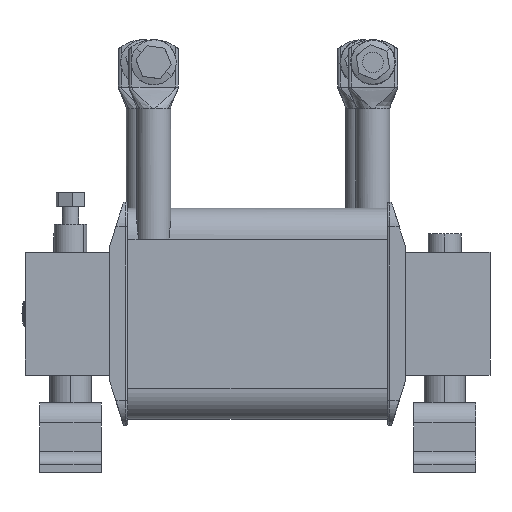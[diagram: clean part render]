
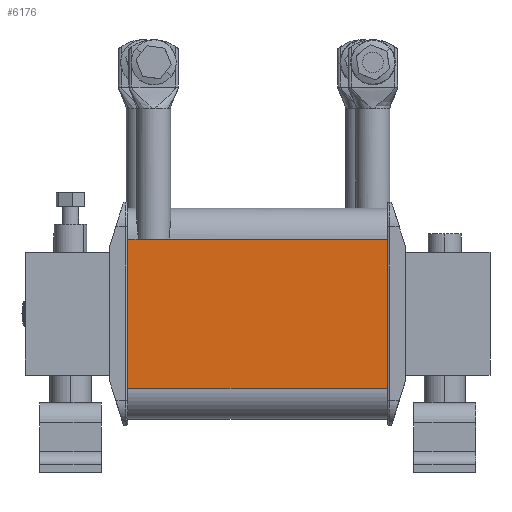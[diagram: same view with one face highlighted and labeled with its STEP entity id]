
A CAD part, left-side view. The second image highlights one B-rep face of the part: STEP entity #6176.
In plain terms, the highlighted planar face has unit normal (-1, 0, 0).
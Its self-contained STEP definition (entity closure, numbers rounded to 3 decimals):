
#111 = ORIENTED_EDGE ( 'NONE', *, *, #1523, .F. ) ;
#358 = CARTESIAN_POINT ( 'NONE',  ( -131.75, 175.8, 36.25 ) ) ;
#577 = CARTESIAN_POINT ( 'NONE',  ( -131.75, 175.8, -36.25 ) ) ;
#892 = DIRECTION ( 'NONE',  ( 0., -1., 0. ) ) ;
#1019 = CARTESIAN_POINT ( 'NONE',  ( -131.75, 49.8, -36.25 ) ) ;
#1523 = EDGE_CURVE ( 'NONE', #2872, #8637, #11412, .T. ) ;
#1565 = ORIENTED_EDGE ( 'NONE', *, *, #7828, .F. ) ;
#2137 = CARTESIAN_POINT ( 'NONE',  ( -131.75, 170.776, 36.25 ) ) ;
#2872 = VERTEX_POINT ( 'NONE', #2137 ) ;
#3711 = EDGE_CURVE ( 'NONE', #10870, #4197, #13248, .T. ) ;
#3992 = CARTESIAN_POINT ( 'NONE',  ( -131.75, 175.8, -36.25 ) ) ;
#4197 = VERTEX_POINT ( 'NONE', #1019 ) ;
#4941 = DIRECTION ( 'NONE',  ( 1., 0., 0. ) ) ;
#5528 = CARTESIAN_POINT ( 'NONE',  ( -131.75, 155.61, 36.25 ) ) ;
#6176 = ADVANCED_FACE ( 'NONE', ( #8286 ), #15398, .F. ) ;
#6198 = CARTESIAN_POINT ( 'NONE',  ( -131.75, 175.8, 36.25 ) ) ;
#6553 = CARTESIAN_POINT ( 'NONE',  ( -131.75, 175.8, -36.25 ) ) ;
#6749 = VECTOR ( 'NONE', #11283, 1000. ) ;
#7318 = CARTESIAN_POINT ( 'NONE',  ( -131.75, 49.8, 36.25 ) ) ;
#7828 = EDGE_CURVE ( 'NONE', #10870, #8299, #12849, .T. ) ;
#8054 = CARTESIAN_POINT ( 'NONE',  ( -131.75, 175.8, -36.25 ) ) ;
#8286 = FACE_OUTER_BOUND ( 'NONE', #17352, .T. ) ;
#8299 = VERTEX_POINT ( 'NONE', #18774 ) ;
#8637 = VERTEX_POINT ( 'NONE', #5528 ) ;
#9132 = CARTESIAN_POINT ( 'NONE',  ( -131.75, 163.193, 36.25 ) ) ;
#9230 = DIRECTION ( 'NONE',  ( 0., -1., 0. ) ) ;
#10257 = EDGE_CURVE ( 'NONE', #8637, #19588, #16644, .T. ) ;
#10349 = ORIENTED_EDGE ( 'NONE', *, *, #10257, .F. ) ;
#10870 = VERTEX_POINT ( 'NONE', #6553 ) ;
#11283 = DIRECTION ( 'NONE',  ( 0., -1., 0. ) ) ;
#11412 = LINE ( 'NONE', #9132, #17726 ) ;
#12849 = LINE ( 'NONE', #3992, #22245 ) ;
#13080 = DIRECTION ( 'NONE',  ( 0., 0., 1. ) ) ;
#13248 = LINE ( 'NONE', #577, #6749 ) ;
#15398 = PLANE ( 'NONE',  #18166 ) ;
#15499 = DIRECTION ( 'NONE',  ( 0., 1., 0. ) ) ;
#15726 = VECTOR ( 'NONE', #892, 1000. ) ;
#15927 = VECTOR ( 'NONE', #17548, 1000. ) ;
#16137 = DIRECTION ( 'NONE',  ( 0., -1., 0. ) ) ;
#16644 = LINE ( 'NONE', #6198, #15726 ) ;
#16659 = VECTOR ( 'NONE', #9230, 1000. ) ;
#17352 = EDGE_LOOP ( 'NONE', ( #111, #19317, #1565, #18841, #21327, #10349 ) ) ;
#17548 = DIRECTION ( 'NONE',  ( 0., 0., 1. ) ) ;
#17726 = VECTOR ( 'NONE', #16137, 1000. ) ;
#18166 = AXIS2_PLACEMENT_3D ( 'NONE', #8054, #4941, #15499 ) ;
#18184 = LINE ( 'NONE', #358, #16659 ) ;
#18774 = CARTESIAN_POINT ( 'NONE',  ( -131.75, 175.8, 36.25 ) ) ;
#18841 = ORIENTED_EDGE ( 'NONE', *, *, #3711, .T. ) ;
#19317 = ORIENTED_EDGE ( 'NONE', *, *, #20099, .F. ) ;
#19474 = CARTESIAN_POINT ( 'NONE',  ( -131.75, 49.8, -36.25 ) ) ;
#19588 = VERTEX_POINT ( 'NONE', #7318 ) ;
#20099 = EDGE_CURVE ( 'NONE', #8299, #2872, #18184, .T. ) ;
#20678 = EDGE_CURVE ( 'NONE', #4197, #19588, #21080, .T. ) ;
#21080 = LINE ( 'NONE', #19474, #15927 ) ;
#21327 = ORIENTED_EDGE ( 'NONE', *, *, #20678, .T. ) ;
#22245 = VECTOR ( 'NONE', #13080, 1000. ) ;
